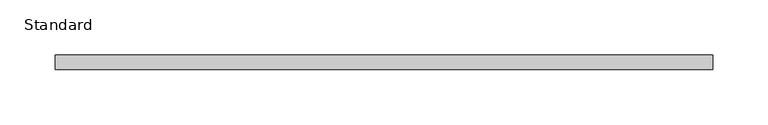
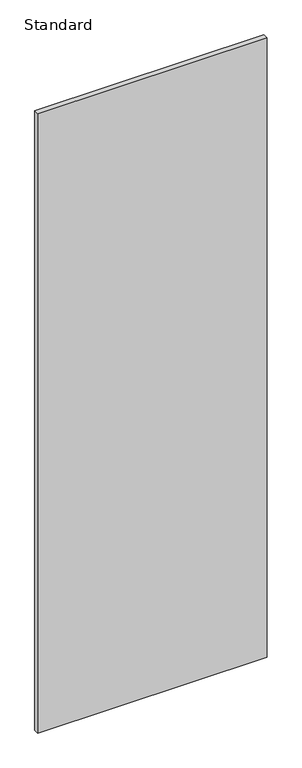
"""IFC4 building model written with IfcOpenShell, lengths in millimetres: furniture geometry, X_Partition-Compact Laminate-Duracube-Door : Standard."""

from ifc_helpers import new_model, si_unit, frame, origin, place, context, project, spatial, polyline, outline, extrude, source, transform, mapped, element, save


def standard_903006f0(model_context):
    return source(origin(), model_context, "Body", "SweptSolid", [
        extrude(outline(polyline([(342.5336598, 0.0), (342.5336598, -13.0), (-253.1330069, -13.0), (-253.1330069, 0.0), (342.5336598, 0.0)])), frame((0.0, 0.0, 200.0), z_axis=(0.0, 0.0, 1.0), x_axis=(1.0, 0.0, 0.0)), (0.0, 0.0, 1.0), 1700.0),
    ])


if __name__ == "__main__":
    model = new_model("IFC4")
    model_context = context("Model", 3, world=origin())
    ifc_project = project(units=[si_unit("LENGTHUNIT", "METRE", prefix="MILLI")], contexts=[model_context])
    site = spatial("IfcSite", under=ifc_project)
    building = spatial("IfcBuilding", under=site)
    placement = place(None, origin())
    standard_shape = standard_903006f0(model_context)
    element("IfcFurniture", 1, ObjectType="X_Partition-Compact Laminate-Duracube-Door : Standard", at=placement, inside=building, context=model_context, shape_type="MappedRepresentation", body=[
        mapped(standard_shape, transform((0.0, 0.0, 0.0), x_axis=(1.0, 0.0, 0.0), y_axis=(0.0, 1.0, 0.0), z_axis=(0.0, 0.0, 1.0))),
    ])
    save(model, "model.ifc")
